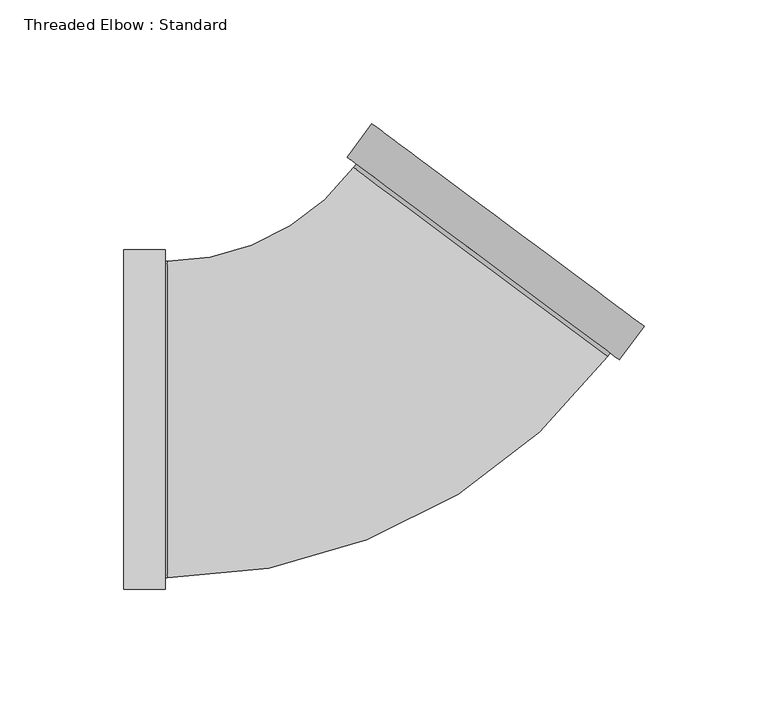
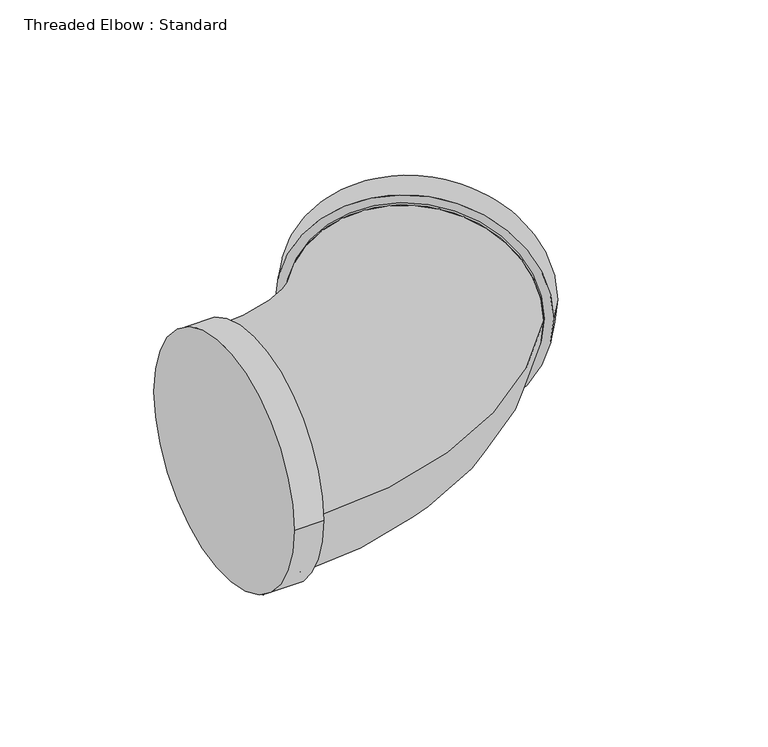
"""IFC4 building model written with IfcOpenShell, lengths in millimetres: pipe fitting geometry, Threaded Elbow : Standard."""

from ifc_helpers import new_model, si_unit, point, frame, origin, place, context, project, spatial, circle_curve, ellipse_curve, trimmed, source, transform, mapped, element, save
from ifc_brep_helpers import plane_surface, cylinder_surface, revolved_surface, advanced_brep


def threaded_elbow_standard_2a5693f9(model_context):
    return source(origin(), model_context, "Body", "AdvancedBrep", [
        advanced_brep(
        [(103.4292877, 24.108702, 0.0), (-6.656043, 105.9931326, 0.0), (-2.9089694, 103.2059585, 0.0), (99.6822141, 26.8958761, 0.0), (113.4559527, 37.5885384, 0.0), (3.370622, 119.472969, 0.0), (98.632902, 25.4851822, 0.0), (-3.9582815, 101.7952645, 0.0)],
        [
            (0, 1, circle_curve(frame((48.3866224, 65.0509173, 0.0), z_axis=(-0.5968252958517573, -0.8023712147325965, 0.0), x_axis=(-0.8023712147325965, 0.5968252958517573, 0.0)), 68.6)),
            (1, 0, circle_curve(frame((48.3866224, 65.0509173, 0.0), z_axis=(-0.5968252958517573, -0.8023712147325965, 0.0), x_axis=(-0.8023712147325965, 0.5968252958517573, 0.0)), 68.6)),
            (2, 3, circle_curve(frame((48.3866224, 65.0509173, 0.0), z_axis=(0.5968252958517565, 0.802371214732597, 0.0), x_axis=(-0.802371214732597, 0.5968252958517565, 0.0)), 63.93)),
            (3, 2, circle_curve(frame((48.3866224, 65.0509173, 0.0), z_axis=(0.5968252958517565, 0.802371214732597, 0.0), x_axis=(-0.802371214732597, 0.5968252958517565, 0.0)), 63.93)),
            (4, 5, circle_curve(frame((58.4132873, 78.5307537, 0.0), z_axis=(0.5968252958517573, 0.8023712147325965, 0.0), x_axis=(-0.8023712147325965, 0.5968252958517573, 0.0)), 68.6)),
            (5, 4, circle_curve(frame((58.4132873, 78.5307537, 0.0), z_axis=(0.5968252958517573, 0.8023712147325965, 0.0), x_axis=(-0.8023712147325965, 0.5968252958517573, 0.0)), 68.6)),
            (0, 4),
            (5, 1),
            (6, 7, circle_curve(frame((47.3373102, 63.6402233, 0.0), z_axis=(-0.5968252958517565, -0.802371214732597, 0.0), x_axis=(-0.802371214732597, 0.5968252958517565, 0.0)), 63.93)),
            (7, 6, circle_curve(frame((47.3373102, 63.6402233, 0.0), z_axis=(-0.5968252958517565, -0.802371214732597, 0.0), x_axis=(-0.802371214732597, 0.5968252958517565, 0.0)), 63.93)),
            (6, 3),
            (2, 7),
        ],
        [
            plane_surface(frame((48.3866224, 65.0509173, 0.0), z_axis=(-0.5968252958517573, -0.8023712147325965, 0.0), x_axis=(0.0, 0.0, 1.0))),
            plane_surface(frame((58.4132873, 78.5307537, 0.0), z_axis=(0.5968252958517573, 0.8023712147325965, 0.0), x_axis=(0.0, 0.0, 1.0))),
            cylinder_surface(frame((48.3866224, 65.0509173, 0.0), z_axis=(-0.5968252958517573, -0.8023712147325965, 0.0), x_axis=(-0.8023712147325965, 0.5968252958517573, 0.0)), 68.6),
            plane_surface(frame((47.3373102, 63.6402233, 0.0), z_axis=(-0.5968252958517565, -0.802371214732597, 0.0), x_axis=(0.0, 0.0, 1.0))),
            cylinder_surface(frame((47.3373102, 63.6402233, 0.0), z_axis=(-0.5968252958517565, -0.802371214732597, 0.0), x_axis=(-0.802371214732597, 0.5968252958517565, 0.0)), 63.93),
        ],
        [
            (0, [[1, 2], [3, 4]]),
            (1, [[5, 6]]),
            (2, [[-1, 7, -6, 8]]),
            (2, [[-2, -8, -5, -7]]),
            (3, [[9, 10]]),
            (4, [[-9, 11, -3, 12]]),
            (4, [[-10, -12, -4, -11]]),
        ],
    ),
        advanced_brep(
        [(-80.1089375, 68.6, 0.0), (-80.1089375, -68.6, 0.0), (-80.1089375, -63.93, 0.0), (-80.1089375, 63.93, 0.0), (-96.9089375, 68.6, 0.0), (-96.9089375, -68.6, 0.0), (-79.3151875, 63.93, 0.0), (-79.3151875, -63.93, 0.0)],
        [
            (0, 1, circle_curve(frame((-80.1089375, 0.0, 0.0), z_axis=(1.0, 0.0, 0.0), x_axis=(0.0, -1.0, 0.0)), 68.6)),
            (1, 0, circle_curve(frame((-80.1089375, 0.0, 0.0), z_axis=(1.0, 0.0, 0.0), x_axis=(0.0, -1.0, 0.0)), 68.6)),
            (2, 3, circle_curve(frame((-80.1089375, 0.0, 0.0), z_axis=(-1.0, 0.0, 0.0), x_axis=(0.0, -1.0, 0.0)), 63.93)),
            (3, 2, circle_curve(frame((-80.1089375, 0.0, 0.0), z_axis=(-1.0, 0.0, 0.0), x_axis=(0.0, -1.0, 0.0)), 63.93)),
            (4, 5, circle_curve(frame((-96.9089375, 0.0, 0.0), z_axis=(-1.0, 0.0, 0.0), x_axis=(0.0, -1.0, 0.0)), 68.6)),
            (5, 4, circle_curve(frame((-96.9089375, 0.0, 0.0), z_axis=(-1.0, 0.0, 0.0), x_axis=(0.0, -1.0, 0.0)), 68.6)),
            (0, 4),
            (5, 1),
            (6, 7, circle_curve(frame((-79.3151875, 0.0, 0.0), z_axis=(1.0, 0.0, 0.0), x_axis=(0.0, -1.0, 0.0)), 63.93)),
            (7, 6, circle_curve(frame((-79.3151875, 0.0, 0.0), z_axis=(1.0, 0.0, 0.0), x_axis=(0.0, -1.0, 0.0)), 63.93)),
            (6, 3),
            (2, 7),
        ],
        [
            plane_surface(frame((-80.1089375, 0.0, 0.0), z_axis=(1.0, 0.0, 0.0), x_axis=(0.0, 0.0, 1.0))),
            plane_surface(frame((-96.9089375, 0.0, 0.0), z_axis=(-1.0, 0.0, 0.0), x_axis=(0.0, 0.0, 1.0))),
            cylinder_surface(frame((-80.1089375, 0.0, 0.0), z_axis=(1.0, 0.0, 0.0), x_axis=(0.0, -1.0, 0.0)), 68.6),
            plane_surface(frame((-79.3151875, 0.0, 0.0), z_axis=(1.0, 0.0, 0.0), x_axis=(0.0, 0.0, 1.0))),
            cylinder_surface(frame((-79.3151875, 0.0, 0.0), z_axis=(1.0, 0.0, 0.0), x_axis=(0.0, -1.0, 0.0)), 63.93),
        ],
        [
            (0, [[1, 2], [3, 4]]),
            (1, [[5, 6]]),
            (2, [[-1, 7, -6, 8]]),
            (2, [[-2, -8, -5, -7]]),
            (3, [[9, 10]]),
            (4, [[-9, 11, -3, 12]]),
            (4, [[-10, -12, -4, -11]]),
        ],
    ),
        advanced_brep(
        [(3.370622, 119.472969, 0.0), (113.4559527, 37.5885384, 0.0), (-6.656043, 105.9931326, 0.0), (103.4292877, 24.108702, 0.0), (-2.9089694, 103.2059585, 0.0), (99.6822141, 26.8958761, 0.0), (98.632902, 25.4851822, 0.0), (-3.9582815, 101.7952645, 0.0)],
        [
            (0, 1, circle_curve(frame((58.4132873, 78.5307537, 0.0), z_axis=(0.5968252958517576, 0.8023712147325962, 0.0), x_axis=(0.8023712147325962, -0.5968252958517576, 0.0)), 68.6)),
            (1, 0, circle_curve(frame((58.4132873, 78.5307537, 0.0), z_axis=(0.5968252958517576, 0.8023712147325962, 0.0), x_axis=(0.8023712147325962, -0.5968252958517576, 0.0)), 68.6)),
            (2, 3, circle_curve(frame((48.3866224, 65.0509173, 0.0), z_axis=(-0.5968252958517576, -0.8023712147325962, 0.0), x_axis=(0.8023712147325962, -0.5968252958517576, 0.0)), 68.6)),
            (3, 2, circle_curve(frame((48.3866224, 65.0509173, 0.0), z_axis=(-0.5968252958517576, -0.8023712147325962, 0.0), x_axis=(0.8023712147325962, -0.5968252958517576, 0.0)), 68.6)),
            (4, 5, circle_curve(frame((48.3866224, 65.0509173, 0.0), z_axis=(0.5968252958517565, 0.802371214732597, 0.0), x_axis=(-0.802371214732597, 0.5968252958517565, 0.0)), 63.93)),
            (5, 4, circle_curve(frame((48.3866224, 65.0509173, 0.0), z_axis=(0.5968252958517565, 0.802371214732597, 0.0), x_axis=(-0.802371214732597, 0.5968252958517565, 0.0)), 63.93)),
            (0, 2),
            (3, 1),
            (6, 7, circle_curve(frame((47.3373102, 63.6402233, 0.0), z_axis=(-0.5968252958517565, -0.802371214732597, 0.0), x_axis=(-0.802371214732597, 0.5968252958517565, 0.0)), 63.93)),
            (7, 6, circle_curve(frame((47.3373102, 63.6402233, 0.0), z_axis=(-0.5968252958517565, -0.802371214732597, 0.0), x_axis=(-0.802371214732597, 0.5968252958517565, 0.0)), 63.93)),
            (6, 5),
            (4, 7),
        ],
        [
            plane_surface(frame((58.4132873, 78.5307537, 0.0), z_axis=(0.5968252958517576, 0.8023712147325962, 0.0), x_axis=(0.0, 0.0, 1.0))),
            plane_surface(frame((48.3866224, 65.0509173, 0.0), z_axis=(-0.5968252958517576, -0.8023712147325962, 0.0), x_axis=(0.0, 0.0, 1.0))),
            cylinder_surface(frame((58.4132873, 78.5307537, 0.0), z_axis=(0.5968252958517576, 0.8023712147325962, 0.0), x_axis=(0.8023712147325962, -0.5968252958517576, 0.0)), 68.6),
            plane_surface(frame((47.3373102, 63.6402233, 0.0), z_axis=(-0.5968252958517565, -0.802371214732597, 0.0), x_axis=(0.0, 0.0, 1.0))),
            cylinder_surface(frame((47.3373102, 63.6402233, 0.0), z_axis=(-0.5968252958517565, -0.802371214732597, 0.0), x_axis=(-0.802371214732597, 0.5968252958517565, 0.0)), 63.93),
        ],
        [
            (0, [[1, 2]]),
            (1, [[3, 4], [5, 6]]),
            (2, [[-1, 7, -4, 8]]),
            (2, [[-2, -8, -3, -7]]),
            (3, [[9, 10]]),
            (4, [[-9, 11, -5, 12]]),
            (4, [[-10, -12, -6, -11]]),
        ],
    ),
        advanced_brep(
        [(-80.1089375, -68.6, 0.0), (-80.1089375, 68.6, 0.0), (-80.1089375, -63.93, 0.0), (-80.1089375, 63.93, 0.0), (-96.9089375, -68.6, 0.0), (-96.9089375, 68.6, 0.0), (-79.3151875, 63.93, 0.0), (-79.3151875, -63.93, 0.0)],
        [
            (0, 1, circle_curve(frame((-80.1089375, 0.0, 0.0), z_axis=(1.0, 0.0, 0.0), x_axis=(0.0, 1.0, 0.0)), 68.6)),
            (1, 0, circle_curve(frame((-80.1089375, 0.0, 0.0), z_axis=(1.0, 0.0, 0.0), x_axis=(0.0, 1.0, 0.0)), 68.6)),
            (2, 3, circle_curve(frame((-80.1089375, 0.0, 0.0), z_axis=(-1.0, 0.0, 0.0), x_axis=(0.0, -1.0, 0.0)), 63.93)),
            (3, 2, circle_curve(frame((-80.1089375, 0.0, 0.0), z_axis=(-1.0, 0.0, 0.0), x_axis=(0.0, -1.0, 0.0)), 63.93)),
            (4, 5, circle_curve(frame((-96.9089375, 0.0, 0.0), z_axis=(-1.0, 0.0, 0.0), x_axis=(0.0, 1.0, 0.0)), 68.6)),
            (5, 4, circle_curve(frame((-96.9089375, 0.0, 0.0), z_axis=(-1.0, 0.0, 0.0), x_axis=(0.0, 1.0, 0.0)), 68.6)),
            (0, 4),
            (5, 1),
            (6, 7, circle_curve(frame((-79.3151875, 0.0, 0.0), z_axis=(1.0, 0.0, 0.0), x_axis=(0.0, -1.0, 0.0)), 63.93)),
            (7, 6, circle_curve(frame((-79.3151875, 0.0, 0.0), z_axis=(1.0, 0.0, 0.0), x_axis=(0.0, -1.0, 0.0)), 63.93)),
            (6, 3),
            (2, 7),
        ],
        [
            plane_surface(frame((-80.1089375, 68.6, 0.0), z_axis=(1.0, 0.0, 0.0), x_axis=(0.0, 0.0, 1.0))),
            plane_surface(frame((-96.9089375, 68.6, 0.0), z_axis=(-1.0, 0.0, 0.0), x_axis=(0.0, 0.0, -1.0))),
            cylinder_surface(frame((-96.9089375, 0.0, 0.0), z_axis=(1.0, 0.0, 0.0), x_axis=(0.0, 1.0, 0.0)), 68.6),
            plane_surface(frame((-79.3151875, 0.0, 0.0), z_axis=(1.0, 0.0, 0.0), x_axis=(0.0, 0.0, 1.0))),
            cylinder_surface(frame((-79.3151875, 0.0, 0.0), z_axis=(1.0, 0.0, 0.0), x_axis=(0.0, -1.0, 0.0)), 63.93),
        ],
        [
            (0, [[1, 2], [3, 4]]),
            (1, [[5, 6]]),
            (2, [[-1, 7, -6, 8]]),
            (2, [[-2, -8, -5, -7]]),
            (3, [[9, 10]]),
            (4, [[-9, 11, -3, 12]]),
            (4, [[-10, -12, -4, -11]]),
        ],
    ),
        advanced_brep(
        [(98.632902, 25.4851822, 0.0), (-3.9582815, 101.7952645, 0.0), (-79.3151875, -63.93, 0.0), (-79.3151875, 63.93, 0.0)],
        [
            (0, 1, circle_curve(frame((47.3373102, 63.6402233, 0.0), z_axis=(0.5968252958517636, 0.8023712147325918, 0.0), x_axis=(-0.8023712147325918, 0.5968252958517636, 0.0)), 63.93)),
            (1, 0, circle_curve(frame((47.3373102, 63.6402233, 0.0), z_axis=(0.5968252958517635, 0.8023712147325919, 0.0), x_axis=(-0.8023712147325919, 0.5968252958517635, 0.0)), 63.93)),
            (2, 3, circle_curve(frame((-79.3151875, 0.0, 0.0), z_axis=(-1.0, 0.0, 0.0), x_axis=(0.0, 1.0, 0.0)), 63.93)),
            (3, 2, circle_curve(frame((-79.3151875, 0.0, 0.0), z_axis=(-1.0, 0.0, 0.0), x_axis=(0.0, 1.0, 0.0)), 63.93)),
            (3, 1, circle_curve(frame((-79.3151875, 157.8477585, 0.0), z_axis=(0.0, 0.0, 1.0), x_axis=(1.0, 0.0, 0.0)), 93.9177585)),
            (0, 2, circle_curve(frame((-79.3151875, 157.8477585, 0.0), z_axis=(0.0, 0.0, -1.0), x_axis=(1.0, 0.0, 0.0)), 221.7777585)),
        ],
        [
            plane_surface(frame((47.3373102, 63.6402233, 0.0), z_axis=(0.5968252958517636, 0.8023712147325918, 0.0), x_axis=(0.0, 0.0, -1.0))),
            plane_surface(frame((-79.3151875, 0.0, 0.0), z_axis=(-1.0, 0.0, 0.0), x_axis=(0.0, 0.0, -1.0))),
            revolved_surface(trimmed(ellipse_curve(frame((78.532571, 157.8477585, 0.0), z_axis=(0.0, -1.0, 0.0), x_axis=(-1.0, 0.0, 0.0)), 63.93, 63.93), [point((14.602571, 157.8477585, 0.0))], [point((142.462571, 157.8477585, 0.0))], True, "CARTESIAN"), (-79.3151875, 157.8477585, 0.0), (0.0, 0.0, 1.0)),
            revolved_surface(trimmed(ellipse_curve(frame((78.532571, 157.8477585, 0.0), z_axis=(0.0, -1.0, 0.0), x_axis=(-1.0, 0.0, 0.0)), 63.93, 63.93), [point((142.462571, 157.8477585, 0.0))], [point((14.602571, 157.8477585, 0.0))], True, "CARTESIAN"), (-79.3151875, 157.8477585, 0.0), (0.0, 0.0, 1.0)),
        ],
        [
            (0, [[1, 2]]),
            (1, [[3, 4]]),
            (2, [[-4, 5, -1, 6]]),
            (3, [[-3, -6, -2, -5]]),
        ],
    ),
        advanced_brep(
        [(98.632902, 25.4851822, 0.0), (-3.9582815, 101.7952645, 0.0), (-79.3151875, -63.93, 0.0), (-79.3151875, 63.93, 0.0)],
        [
            (0, 1, circle_curve(frame((47.3373102, 63.6402233, 0.0), z_axis=(0.5968252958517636, 0.8023712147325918, 0.0), x_axis=(-0.8023712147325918, 0.5968252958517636, 0.0)), 63.93)),
            (1, 0, circle_curve(frame((47.3373102, 63.6402233, 0.0), z_axis=(0.5968252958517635, 0.8023712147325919, 0.0), x_axis=(-0.8023712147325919, 0.5968252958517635, 0.0)), 63.93)),
            (2, 3, circle_curve(frame((-79.3151875, 0.0, 0.0), z_axis=(-1.0, 0.0, 0.0), x_axis=(0.0, 1.0, 0.0)), 63.93)),
            (3, 2, circle_curve(frame((-79.3151875, 0.0, 0.0), z_axis=(-1.0, 0.0, 0.0), x_axis=(0.0, 1.0, 0.0)), 63.93)),
            (3, 1, circle_curve(frame((-79.3151875, 157.8477585, 0.0), z_axis=(0.0, 0.0, 1.0), x_axis=(1.0, 0.0, 0.0)), 93.9177585)),
            (0, 2, circle_curve(frame((-79.3151875, 157.8477585, 0.0), z_axis=(0.0, 0.0, -1.0), x_axis=(1.0, 0.0, 0.0)), 221.7777585)),
        ],
        [
            plane_surface(frame((47.3373102, 63.6402233, 0.0), z_axis=(0.5968252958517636, 0.8023712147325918, 0.0), x_axis=(0.0, 0.0, -1.0))),
            plane_surface(frame((-79.3151875, 0.0, 0.0), z_axis=(-1.0, 0.0, 0.0), x_axis=(0.0, 0.0, -1.0))),
            revolved_surface(trimmed(ellipse_curve(frame((78.532571, 157.8477585, 0.0), z_axis=(0.0, -1.0, 0.0), x_axis=(-1.0, 0.0, 0.0)), 63.93, 63.93), [point((14.602571, 157.8477585, 0.0))], [point((142.462571, 157.8477585, 0.0))], True, "CARTESIAN"), (-79.3151875, 157.8477585, 0.0), (0.0, 0.0, 1.0)),
            revolved_surface(trimmed(ellipse_curve(frame((78.532571, 157.8477585, 0.0), z_axis=(0.0, -1.0, 0.0), x_axis=(-1.0, 0.0, 0.0)), 63.93, 63.93), [point((142.462571, 157.8477585, 0.0))], [point((14.602571, 157.8477585, 0.0))], True, "CARTESIAN"), (-79.3151875, 157.8477585, 0.0), (0.0, 0.0, 1.0)),
        ],
        [
            (0, [[1, 2]]),
            (1, [[3, 4]]),
            (2, [[-4, 5, -1, 6]]),
            (3, [[-3, -6, -2, -5]]),
        ],
    ),
    ])


if __name__ == "__main__":
    model = new_model("IFC4")
    model_context = context("Model", 3, world=origin())
    ifc_project = project(units=[si_unit("LENGTHUNIT", "METRE", prefix="MILLI")], contexts=[model_context])
    site = spatial("IfcSite", under=ifc_project)
    building = spatial("IfcBuilding", under=site)
    placement = place(None, origin())
    threaded_elbow_standard_shape = threaded_elbow_standard_2a5693f9(model_context)
    element("IfcPipeFitting", 1, ObjectType="Threaded Elbow : Standard", at=placement, inside=building, context=model_context, shape_type="MappedRepresentation", body=[
        mapped(threaded_elbow_standard_shape, transform((0.0, 0.0, 0.0), x_axis=(1.0, 0.0, 0.0), y_axis=(0.0, 1.0, 0.0), z_axis=(0.0, 0.0, 1.0))),
    ])
    save(model, "model.ifc")
